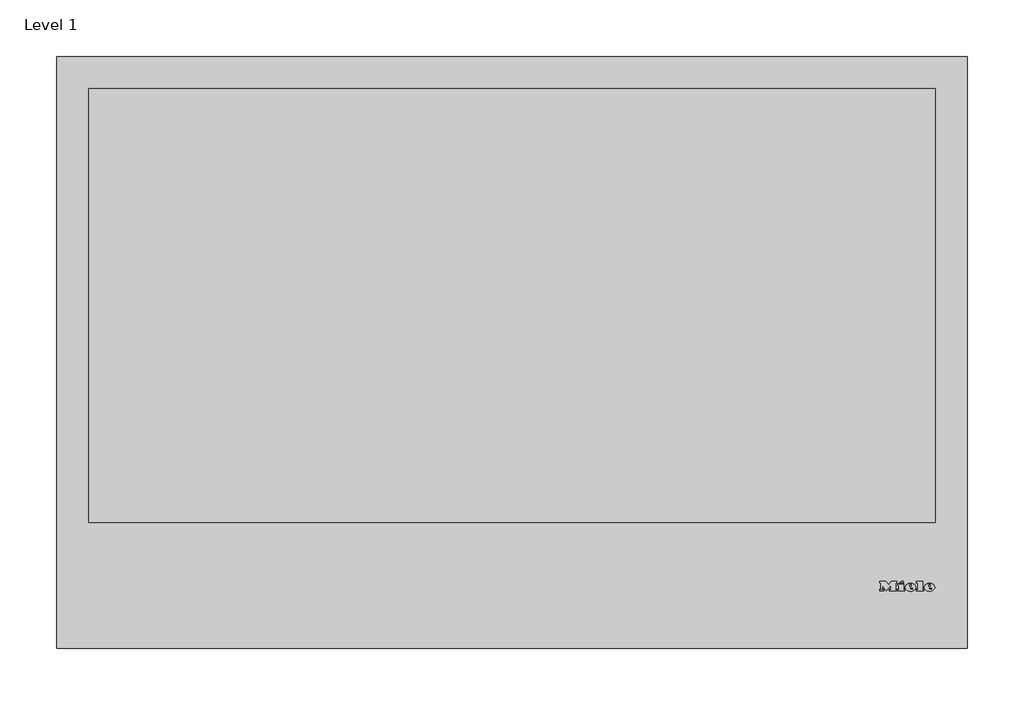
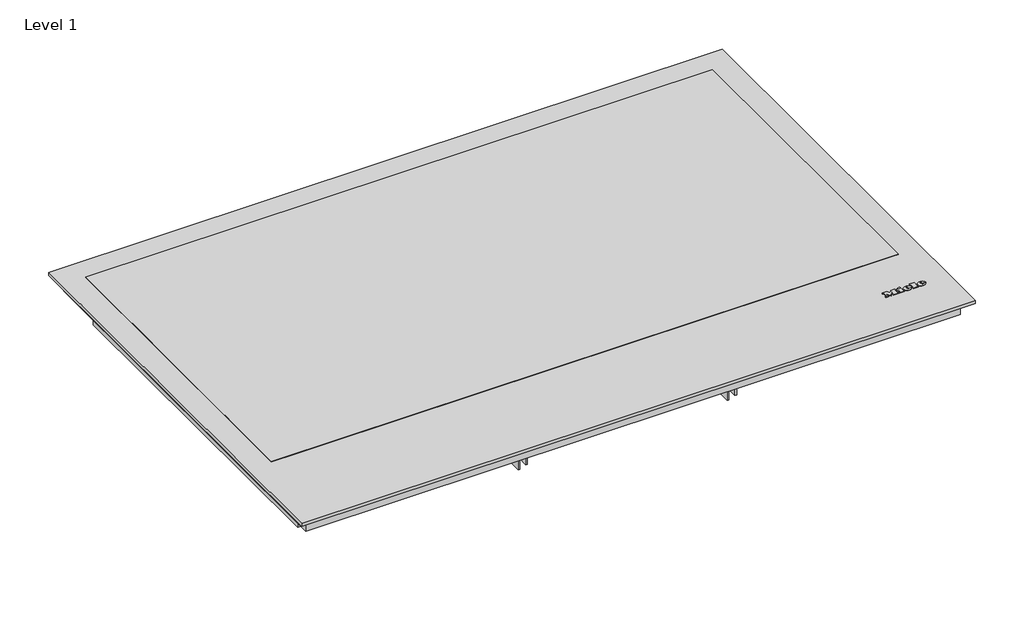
# One storey: 1 proxy.
"""IFC4 building model written with IfcOpenShell, lengths in millimetres."""

from ifc_helpers import new_model, si_unit, origin, place, context, project, spatial, transform, mapped, element, save
from components import specialty_equipment_21553ecd

model = new_model("IFC4")

# Units and contexts
model_context = context("Model", 3, world=origin())
ifc_project = project(units=[si_unit("LENGTHUNIT", "METRE", prefix="MILLI")], contexts=[model_context])

# Site, building, storey
site = spatial("IfcSite", under=ifc_project)
building = spatial("IfcBuilding", under=site)
storey = spatial("IfcBuildingStorey", under=building, Name="Level 1", Elevation=0.0)

# Proxy
placement = place(None, origin())
specialty_equipment_shape = specialty_equipment_21553ecd(model_context)
element("IfcBuildingElementProxy", 1, Name="11128730_D_KM7678FL : 26767870_D_11128730_KM7678FL", ObjectType="11128730_D_KM7678FL : 26767870_D_11128730_KM7678FL", at=placement, inside=storey, context=model_context, shape_type="MappedRepresentation", body=[
    mapped(specialty_equipment_shape, transform((0.0, 0.0, 0.0), x_axis=(1.0, 0.0, 0.0), y_axis=(0.0, 1.0, 0.0), z_axis=(0.0, 0.0, 1.0))),
])

save(model, "model.ifc")
